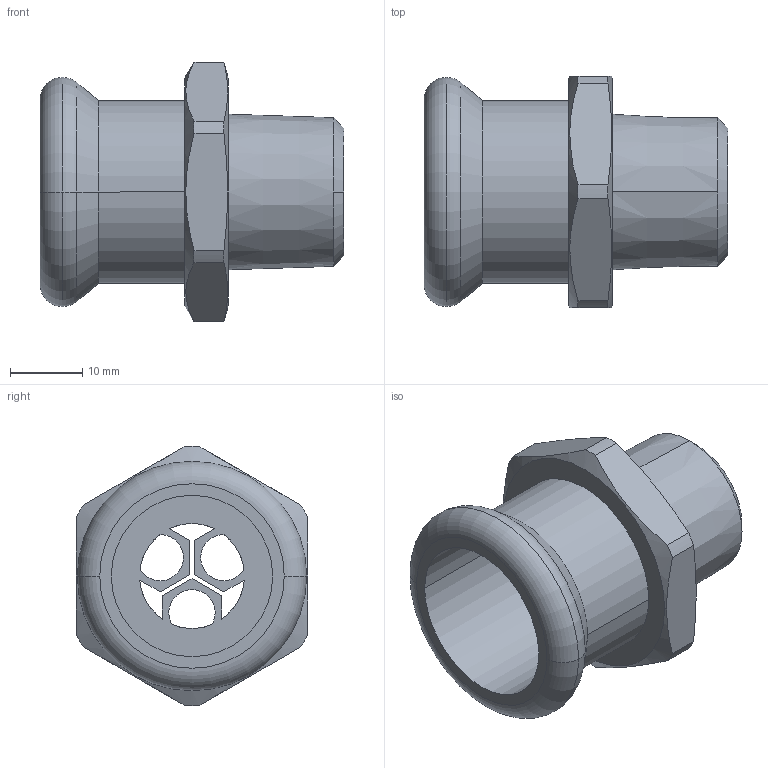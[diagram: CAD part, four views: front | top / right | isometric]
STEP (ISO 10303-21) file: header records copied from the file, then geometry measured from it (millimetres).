
FILE_DESCRIPTION(('OneSpaceDesigner STEP Export'),'2;1');
FILE_NAME('R2705 22xR1-2.stp','2010-06-09T10:38:55',(''),(''),'OneSpace Designer STEP processor for AP214 (Solid Model)','OneSpace Modeling 15.00A 14-Mar-2007 (C) CoCreate Software GmbH','');
FILE_SCHEMA(('AUTOMOTIVE_DESIGN { 1 0 10303 214 1 1 1 1 }'));
Length unit declared in the file: millimetre
Products named in the file (2): R2705_22xR1-2
Assembly tree (1 placements, depth 2):
  R2705_22xR1-2
    R2705_22xR1-2
Bounding box: 42 x 32 x 35.89 mm (x, y, z)
Volume: 10715.1 mm3; surface area: 7619.3 mm2
Topology: 1 solids, 1 shells, 58 faces, 164 edges, 108 vertices
Faces by surface type: plane 26, cylinder 18, cone 10, torus 4
Entity records: 2449 total; most frequent: CARTESIAN_POINT 1036, ORIENTED_EDGE 328, DIRECTION 236, EDGE_CURVE 164, VERTEX_POINT 108, AXIS2_PLACEMENT_3D 80, VECTOR 76, LINE 76
